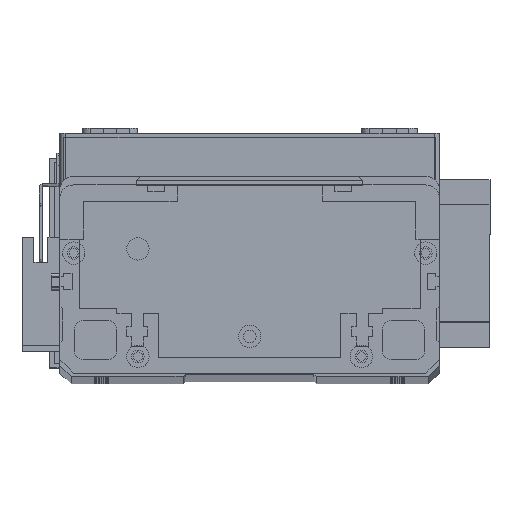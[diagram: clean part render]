
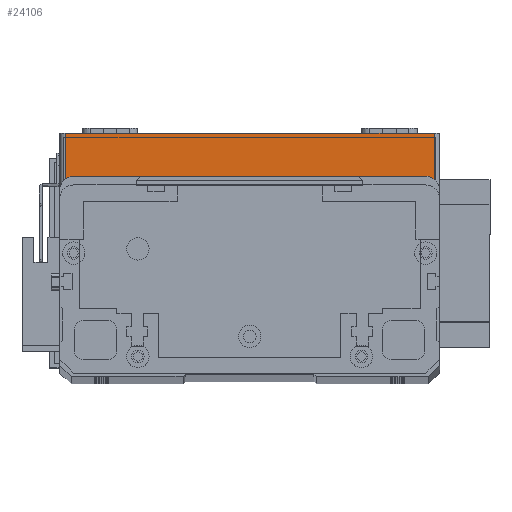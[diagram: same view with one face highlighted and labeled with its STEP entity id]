
A CAD part, top view. The second image highlights one B-rep face of the part: STEP entity #24106.
In plain terms, the highlighted planar face has unit normal (0, 0, 1) as drawn and (0, -1, 0) by its records, which use the part's own axes.
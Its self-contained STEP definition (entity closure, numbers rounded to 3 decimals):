
#1449 = PLANE ( 'NONE',  #10988 ) ;
#2762 = LINE ( 'NONE', #4090, #21735 ) ;
#4090 = CARTESIAN_POINT ( 'NONE',  ( 0., 0., 19.5 ) ) ;
#4586 = VERTEX_POINT ( 'NONE', #9549 ) ;
#5762 = DIRECTION ( 'NONE',  ( 1., 0., 0. ) ) ;
#5903 = DIRECTION ( 'NONE',  ( 0., 0., 1. ) ) ;
#6077 = DIRECTION ( 'NONE',  ( 0., 1., 0. ) ) ;
#6463 = LINE ( 'NONE', #19575, #17884 ) ;
#7069 = CARTESIAN_POINT ( 'NONE',  ( 134., 0., 0. ) ) ;
#7815 = CARTESIAN_POINT ( 'NONE',  ( 2., 0., 19.5 ) ) ;
#8283 = VECTOR ( 'NONE', #11614, 1000. ) ;
#9184 = VERTEX_POINT ( 'NONE', #7815 ) ;
#9215 = EDGE_LOOP ( 'NONE', ( #27712, #26463, #19627, #18696 ) ) ;
#9549 = CARTESIAN_POINT ( 'NONE',  ( 2., 0., 0. ) ) ;
#10528 = CARTESIAN_POINT ( 'NONE',  ( 0., 0., 19.5 ) ) ;
#10988 = AXIS2_PLACEMENT_3D ( 'NONE', #10528, #6077, #22021 ) ;
#11614 = DIRECTION ( 'NONE',  ( 0., 0., -1. ) ) ;
#12541 = FACE_OUTER_BOUND ( 'NONE', #9215, .T. ) ;
#13618 = LINE ( 'NONE', #25310, #8283 ) ;
#14829 = CARTESIAN_POINT ( 'NONE',  ( 0., 0., 0. ) ) ;
#17884 = VECTOR ( 'NONE', #5903, 1000. ) ;
#17977 = EDGE_CURVE ( 'NONE', #9184, #4586, #13618, .T. ) ;
#18696 = ORIENTED_EDGE ( 'NONE', *, *, #25369, .T. ) ;
#18698 = VECTOR ( 'NONE', #5762, 1000. ) ;
#19575 = CARTESIAN_POINT ( 'NONE',  ( 134., 0., 19.5 ) ) ;
#19627 = ORIENTED_EDGE ( 'NONE', *, *, #22652, .T. ) ;
#19663 = CARTESIAN_POINT ( 'NONE',  ( 134., 0., 19.5 ) ) ;
#19867 = EDGE_CURVE ( 'NONE', #9184, #22066, #2762, .T. ) ;
#20084 = DIRECTION ( 'NONE',  ( 1., 0., 0. ) ) ;
#21735 = VECTOR ( 'NONE', #20084, 1000. ) ;
#22021 = DIRECTION ( 'NONE',  ( 0., 0., 1. ) ) ;
#22066 = VERTEX_POINT ( 'NONE', #19663 ) ;
#22407 = VERTEX_POINT ( 'NONE', #7069 ) ;
#22652 = EDGE_CURVE ( 'NONE', #4586, #22407, #24757, .T. ) ;
#24106 = ADVANCED_FACE ( 'NONE', ( #12541 ), #1449, .F. ) ;
#24757 = LINE ( 'NONE', #14829, #18698 ) ;
#25310 = CARTESIAN_POINT ( 'NONE',  ( 2., 0., 19.5 ) ) ;
#25369 = EDGE_CURVE ( 'NONE', #22407, #22066, #6463, .T. ) ;
#26463 = ORIENTED_EDGE ( 'NONE', *, *, #17977, .T. ) ;
#27712 = ORIENTED_EDGE ( 'NONE', *, *, #19867, .F. ) ;
